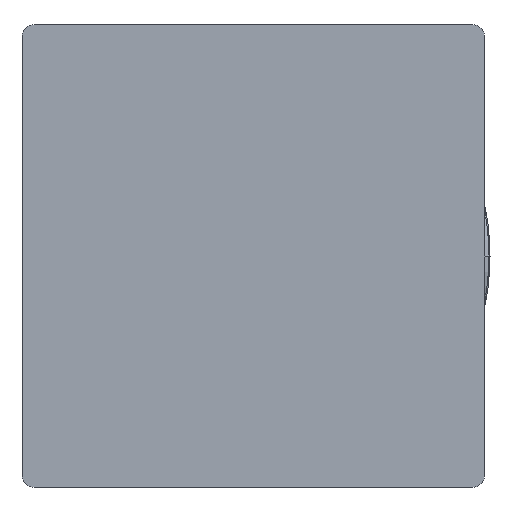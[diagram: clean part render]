
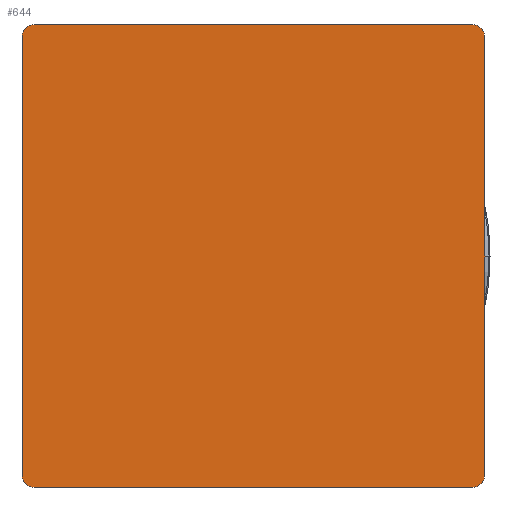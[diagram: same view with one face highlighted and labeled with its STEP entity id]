
A CAD part, left-side view. The second image highlights one B-rep face of the part: STEP entity #644.
In plain terms, the highlighted planar face has unit normal (-1, 0, 0).
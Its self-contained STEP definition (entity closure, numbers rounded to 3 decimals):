
#1=DIRECTION('',(0.,0.,-1.));
#2=VECTOR('',#1,71.002);
#3=CARTESIAN_POINT('',(39.,37.5,35.501));
#4=LINE('',#3,#2);
#71=CARTESIAN_POINT('',(39.,35.501,-37.5));
#72=CARTESIAN_POINT('',(39.,35.668,-37.5));
#73=CARTESIAN_POINT('',(39.,35.962,-37.461));
#74=CARTESIAN_POINT('',(39.,36.456,-37.289));
#75=CARTESIAN_POINT('',(39.,36.943,-36.943));
#76=CARTESIAN_POINT('',(39.,37.289,-36.456));
#77=CARTESIAN_POINT('',(39.,37.461,-35.962));
#78=CARTESIAN_POINT('',(39.,37.5,-35.668));
#79=CARTESIAN_POINT('',(39.,37.5,-35.501));
#81=DIRECTION('',(0.,1.,0.));
#82=VECTOR('',#81,71.002);
#83=CARTESIAN_POINT('',(39.,-35.501,-37.5));
#84=LINE('',#83,#82);
#147=CARTESIAN_POINT('',(39.,-37.5,-35.501));
#148=CARTESIAN_POINT('',(39.,-37.5,-35.668));
#149=CARTESIAN_POINT('',(39.,-37.461,-35.962));
#150=CARTESIAN_POINT('',(39.,-37.289,-36.456));
#151=CARTESIAN_POINT('',(39.,-36.943,-36.943));
#152=CARTESIAN_POINT('',(39.,-36.456,-37.289));
#153=CARTESIAN_POINT('',(39.,-35.962,-37.461));
#154=CARTESIAN_POINT('',(39.,-35.668,-37.5));
#155=CARTESIAN_POINT('',(39.,-35.501,-37.5));
#161=DIRECTION('',(0.,0.,-1.));
#162=VECTOR('',#161,71.002);
#163=CARTESIAN_POINT('',(39.,-37.5,35.501));
#164=LINE('',#163,#162);
#169=CARTESIAN_POINT('',(39.,-35.501,37.5));
#170=CARTESIAN_POINT('',(39.,-35.668,37.5));
#171=CARTESIAN_POINT('',(39.,-35.962,37.461));
#172=CARTESIAN_POINT('',(39.,-36.456,37.289));
#173=CARTESIAN_POINT('',(39.,-36.943,36.943));
#174=CARTESIAN_POINT('',(39.,-37.289,36.456));
#175=CARTESIAN_POINT('',(39.,-37.461,35.962));
#176=CARTESIAN_POINT('',(39.,-37.5,35.668));
#177=CARTESIAN_POINT('',(39.,-37.5,35.501));
#183=DIRECTION('',(0.,1.,0.));
#184=VECTOR('',#183,71.002);
#185=CARTESIAN_POINT('',(39.,-35.501,37.5));
#186=LINE('',#185,#184);
#249=CARTESIAN_POINT('',(39.,37.5,35.501));
#250=CARTESIAN_POINT('',(39.,37.5,35.668));
#251=CARTESIAN_POINT('',(39.,37.461,35.962));
#252=CARTESIAN_POINT('',(39.,37.289,36.456));
#253=CARTESIAN_POINT('',(39.,36.943,36.943));
#254=CARTESIAN_POINT('',(39.,36.456,37.289));
#255=CARTESIAN_POINT('',(39.,35.962,37.461));
#256=CARTESIAN_POINT('',(39.,35.668,37.5));
#257=CARTESIAN_POINT('',(39.,35.501,37.5));
#563=VERTEX_POINT('',#147);
#564=VERTEX_POINT('',#155);
#565=CARTESIAN_POINT('',(39.,-37.5,35.501));
#566=VERTEX_POINT('',#565);
#567=CARTESIAN_POINT('',(39.,35.501,-37.5));
#568=VERTEX_POINT('',#567);
#569=VERTEX_POINT('',#169);
#570=CARTESIAN_POINT('',(39.,35.501,37.5));
#571=VERTEX_POINT('',#570);
#572=VERTEX_POINT('',#79);
#573=CARTESIAN_POINT('',(39.,37.5,35.501));
#574=VERTEX_POINT('',#573);
#621=CARTESIAN_POINT('',(39.,-59.145,34.581));
#622=DIRECTION('',(1.,0.,0.));
#623=DIRECTION('',(0.,1.,0.));
#624=AXIS2_PLACEMENT_3D('',#621,#622,#623);
#625=PLANE('',#624);
#627=ORIENTED_EDGE('',*,*,#626,.F.);
#629=ORIENTED_EDGE('',*,*,#628,.T.);
#631=ORIENTED_EDGE('',*,*,#630,.F.);
#633=ORIENTED_EDGE('',*,*,#632,.T.);
#635=ORIENTED_EDGE('',*,*,#634,.T.);
#637=ORIENTED_EDGE('',*,*,#636,.T.);
#639=ORIENTED_EDGE('',*,*,#638,.T.);
#641=ORIENTED_EDGE('',*,*,#640,.T.);
#642=EDGE_LOOP('',(#627,#629,#631,#633,#635,#637,#639,#641));
#643=FACE_OUTER_BOUND('',#642,.F.);
#644=ADVANCED_FACE('',(#643),#625,.F.);
#80=B_SPLINE_CURVE_WITH_KNOTS('',3,(#71,#72,#73,#74,#75,#76,#77,#78,#79),
.UNSPECIFIED.,.F.,.F.,(4,1,1,1,1,1,4),(0.,0.125,0.25,0.5,0.75,0.875,
1.),.UNSPECIFIED.);
#156=B_SPLINE_CURVE_WITH_KNOTS('',3,(#147,#148,#149,#150,#151,#152,#153,#154,
#155),.UNSPECIFIED.,.F.,.F.,(4,1,1,1,1,1,4),(0.,0.125,0.25,0.5,0.75,
0.875,1.),.UNSPECIFIED.);
#178=B_SPLINE_CURVE_WITH_KNOTS('',3,(#169,#170,#171,#172,#173,#174,#175,#176,
#177),.UNSPECIFIED.,.F.,.F.,(4,1,1,1,1,1,4),(0.,0.125,0.25,0.5,0.75,
0.875,1.),.UNSPECIFIED.);
#258=B_SPLINE_CURVE_WITH_KNOTS('',3,(#249,#250,#251,#252,#253,#254,#255,#256,
#257),.UNSPECIFIED.,.F.,.F.,(4,1,1,1,1,1,4),(0.,0.125,0.25,0.5,0.75,
0.875,1.),.UNSPECIFIED.);
#626=EDGE_CURVE('',#574,#572,#4,.T.);
#628=EDGE_CURVE('',#574,#571,#258,.T.);
#630=EDGE_CURVE('',#569,#571,#186,.T.);
#632=EDGE_CURVE('',#569,#566,#178,.T.);
#634=EDGE_CURVE('',#566,#563,#164,.T.);
#636=EDGE_CURVE('',#563,#564,#156,.T.);
#638=EDGE_CURVE('',#564,#568,#84,.T.);
#640=EDGE_CURVE('',#568,#572,#80,.T.);
